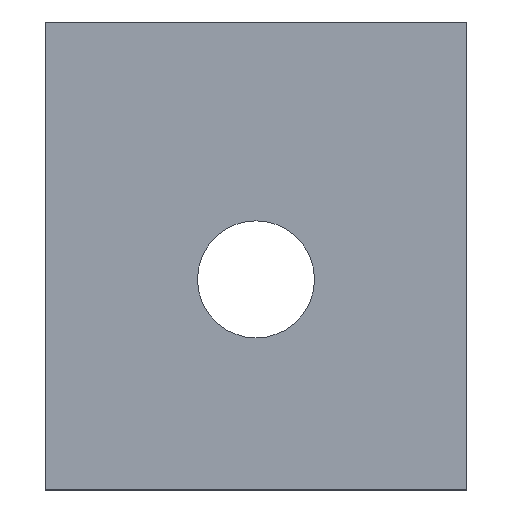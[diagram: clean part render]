
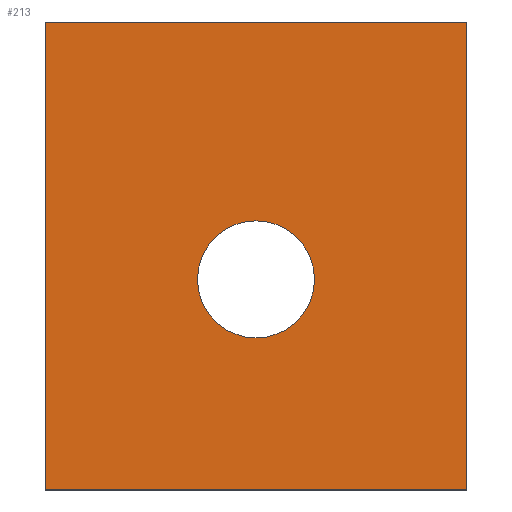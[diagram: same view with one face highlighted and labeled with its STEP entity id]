
A CAD part, top view. The second image highlights one B-rep face of the part: STEP entity #213.
In plain terms, the highlighted planar face has unit normal (0, 0, 1).
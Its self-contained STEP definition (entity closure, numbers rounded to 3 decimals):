
#24 = VERTEX_POINT('',#25);
#25 = CARTESIAN_POINT('',(-487.,0.,23.));
#32 = PLANE('',#33);
#33 = AXIS2_PLACEMENT_3D('',#34,#35,#36);
#34 = CARTESIAN_POINT('',(-487.,0.,20.));
#35 = DIRECTION('',(1.,0.,0.));
#36 = DIRECTION('',(0.,0.,1.));
#44 = PLANE('',#45);
#45 = AXIS2_PLACEMENT_3D('',#46,#47,#48);
#46 = CARTESIAN_POINT('',(-487.,0.,20.));
#47 = DIRECTION('',(0.,1.,0.));
#48 = DIRECTION('',(0.,0.,1.));
#85 = VERTEX_POINT('',#86);
#86 = CARTESIAN_POINT('',(-487.,200.,23.));
#100 = PLANE('',#101);
#101 = AXIS2_PLACEMENT_3D('',#102,#103,#104);
#102 = CARTESIAN_POINT('',(-487.,200.,20.));
#103 = DIRECTION('',(0.,1.,0.));
#104 = DIRECTION('',(0.,0.,1.));
#112 = EDGE_CURVE('',#24,#85,#113,.T.);
#113 = SURFACE_CURVE('',#114,(#118,#125),.PCURVE_S1.);
#114 = LINE('',#115,#116);
#115 = CARTESIAN_POINT('',(-487.,0.,23.));
#116 = VECTOR('',#117,1.);
#117 = DIRECTION('',(0.,1.,0.));
#118 = PCURVE('',#32,#119);
#119 = DEFINITIONAL_REPRESENTATION('',(#120),#124);
#120 = LINE('',#121,#122);
#121 = CARTESIAN_POINT('',(3.,0.));
#122 = VECTOR('',#123,1.);
#123 = DIRECTION('',(0.,-1.));
#124 = ( GEOMETRIC_REPRESENTATION_CONTEXT(2) 
PARAMETRIC_REPRESENTATION_CONTEXT() REPRESENTATION_CONTEXT('2D SPACE',''
  ) );
#125 = PCURVE('',#126,#131);
#126 = PLANE('',#127);
#127 = AXIS2_PLACEMENT_3D('',#128,#129,#130);
#128 = CARTESIAN_POINT('',(-487.,0.,23.));
#129 = DIRECTION('',(0.,0.,1.));
#130 = DIRECTION('',(1.,0.,0.));
#131 = DEFINITIONAL_REPRESENTATION('',(#132),#136);
#132 = LINE('',#133,#134);
#133 = CARTESIAN_POINT('',(0.,0.));
#134 = VECTOR('',#135,1.);
#135 = DIRECTION('',(0.,1.));
#136 = ( GEOMETRIC_REPRESENTATION_CONTEXT(2) 
PARAMETRIC_REPRESENTATION_CONTEXT() REPRESENTATION_CONTEXT('2D SPACE',''
  ) );
#165 = EDGE_CURVE('',#24,#166,#168,.T.);
#166 = VERTEX_POINT('',#167);
#167 = CARTESIAN_POINT('',(-307.,0.,23.));
#168 = SURFACE_CURVE('',#169,(#173,#180),.PCURVE_S1.);
#169 = LINE('',#170,#171);
#170 = CARTESIAN_POINT('',(-487.,0.,23.));
#171 = VECTOR('',#172,1.);
#172 = DIRECTION('',(1.,0.,0.));
#173 = PCURVE('',#44,#174);
#174 = DEFINITIONAL_REPRESENTATION('',(#175),#179);
#175 = LINE('',#176,#177);
#176 = CARTESIAN_POINT('',(3.,0.));
#177 = VECTOR('',#178,1.);
#178 = DIRECTION('',(0.,1.));
#179 = ( GEOMETRIC_REPRESENTATION_CONTEXT(2) 
PARAMETRIC_REPRESENTATION_CONTEXT() REPRESENTATION_CONTEXT('2D SPACE',''
  ) );
#180 = PCURVE('',#126,#181);
#181 = DEFINITIONAL_REPRESENTATION('',(#182),#186);
#182 = LINE('',#183,#184);
#183 = CARTESIAN_POINT('',(0.,0.));
#184 = VECTOR('',#185,1.);
#185 = DIRECTION('',(1.,0.));
#186 = ( GEOMETRIC_REPRESENTATION_CONTEXT(2) 
PARAMETRIC_REPRESENTATION_CONTEXT() REPRESENTATION_CONTEXT('2D SPACE',''
  ) );
#202 = PLANE('',#203);
#203 = AXIS2_PLACEMENT_3D('',#204,#205,#206);
#204 = CARTESIAN_POINT('',(-307.,0.,20.));
#205 = DIRECTION('',(1.,0.,0.));
#206 = DIRECTION('',(0.,0.,1.));
#213 = ADVANCED_FACE('',(#214,#262),#126,.T.);
#214 = FACE_BOUND('',#215,.T.);
#215 = EDGE_LOOP('',(#216,#217,#218,#241));
#216 = ORIENTED_EDGE('',*,*,#112,.F.);
#217 = ORIENTED_EDGE('',*,*,#165,.T.);
#218 = ORIENTED_EDGE('',*,*,#219,.T.);
#219 = EDGE_CURVE('',#166,#220,#222,.T.);
#220 = VERTEX_POINT('',#221);
#221 = CARTESIAN_POINT('',(-307.,200.,23.));
#222 = SURFACE_CURVE('',#223,(#227,#234),.PCURVE_S1.);
#223 = LINE('',#224,#225);
#224 = CARTESIAN_POINT('',(-307.,0.,23.));
#225 = VECTOR('',#226,1.);
#226 = DIRECTION('',(0.,1.,0.));
#227 = PCURVE('',#126,#228);
#228 = DEFINITIONAL_REPRESENTATION('',(#229),#233);
#229 = LINE('',#230,#231);
#230 = CARTESIAN_POINT('',(180.,0.));
#231 = VECTOR('',#232,1.);
#232 = DIRECTION('',(0.,1.));
#233 = ( GEOMETRIC_REPRESENTATION_CONTEXT(2) 
PARAMETRIC_REPRESENTATION_CONTEXT() REPRESENTATION_CONTEXT('2D SPACE',''
  ) );
#234 = PCURVE('',#202,#235);
#235 = DEFINITIONAL_REPRESENTATION('',(#236),#240);
#236 = LINE('',#237,#238);
#237 = CARTESIAN_POINT('',(3.,0.));
#238 = VECTOR('',#239,1.);
#239 = DIRECTION('',(0.,-1.));
#240 = ( GEOMETRIC_REPRESENTATION_CONTEXT(2) 
PARAMETRIC_REPRESENTATION_CONTEXT() REPRESENTATION_CONTEXT('2D SPACE',''
  ) );
#241 = ORIENTED_EDGE('',*,*,#242,.F.);
#242 = EDGE_CURVE('',#85,#220,#243,.T.);
#243 = SURFACE_CURVE('',#244,(#248,#255),.PCURVE_S1.);
#244 = LINE('',#245,#246);
#245 = CARTESIAN_POINT('',(-487.,200.,23.));
#246 = VECTOR('',#247,1.);
#247 = DIRECTION('',(1.,0.,0.));
#248 = PCURVE('',#126,#249);
#249 = DEFINITIONAL_REPRESENTATION('',(#250),#254);
#250 = LINE('',#251,#252);
#251 = CARTESIAN_POINT('',(0.,200.));
#252 = VECTOR('',#253,1.);
#253 = DIRECTION('',(1.,0.));
#254 = ( GEOMETRIC_REPRESENTATION_CONTEXT(2) 
PARAMETRIC_REPRESENTATION_CONTEXT() REPRESENTATION_CONTEXT('2D SPACE',''
  ) );
#255 = PCURVE('',#100,#256);
#256 = DEFINITIONAL_REPRESENTATION('',(#257),#261);
#257 = LINE('',#258,#259);
#258 = CARTESIAN_POINT('',(3.,0.));
#259 = VECTOR('',#260,1.);
#260 = DIRECTION('',(0.,1.));
#261 = ( GEOMETRIC_REPRESENTATION_CONTEXT(2) 
PARAMETRIC_REPRESENTATION_CONTEXT() REPRESENTATION_CONTEXT('2D SPACE',''
  ) );
#262 = FACE_BOUND('',#263,.T.);
#263 = EDGE_LOOP('',(#264));
#264 = ORIENTED_EDGE('',*,*,#265,.T.);
#265 = EDGE_CURVE('',#266,#266,#268,.T.);
#266 = VERTEX_POINT('',#267);
#267 = CARTESIAN_POINT('',(-372.,90.,23.));
#268 = SURFACE_CURVE('',#269,(#274,#285),.PCURVE_S1.);
#269 = CIRCLE('',#270,25.);
#270 = AXIS2_PLACEMENT_3D('',#271,#272,#273);
#271 = CARTESIAN_POINT('',(-397.,90.,23.));
#272 = DIRECTION('',(0.,0.,-1.));
#273 = DIRECTION('',(1.,0.,0.));
#274 = PCURVE('',#126,#275);
#275 = DEFINITIONAL_REPRESENTATION('',(#276),#284);
#276 = ( BOUNDED_CURVE() B_SPLINE_CURVE(2,(#277,#278,#279,#280,#281,#282
,#283),.UNSPECIFIED.,.T.,.F.) B_SPLINE_CURVE_WITH_KNOTS((1,2,2,2,2,1),(
    -2.094,0.,2.094,4.189,6.283,
8.378),.UNSPECIFIED.) CURVE() GEOMETRIC_REPRESENTATION_ITEM() 
RATIONAL_B_SPLINE_CURVE((1.,0.5,1.,0.5,1.,0.5,1.)) REPRESENTATION_ITEM(
  '') );
#277 = CARTESIAN_POINT('',(115.,90.));
#278 = CARTESIAN_POINT('',(115.,46.699));
#279 = CARTESIAN_POINT('',(77.5,68.349));
#280 = CARTESIAN_POINT('',(40.,90.));
#281 = CARTESIAN_POINT('',(77.5,111.651));
#282 = CARTESIAN_POINT('',(115.,133.301));
#283 = CARTESIAN_POINT('',(115.,90.));
#284 = ( GEOMETRIC_REPRESENTATION_CONTEXT(2) 
PARAMETRIC_REPRESENTATION_CONTEXT() REPRESENTATION_CONTEXT('2D SPACE',''
  ) );
#285 = PCURVE('',#286,#291);
#286 = CYLINDRICAL_SURFACE('',#287,25.);
#287 = AXIS2_PLACEMENT_3D('',#288,#289,#290);
#288 = CARTESIAN_POINT('',(-397.,90.,19.));
#289 = DIRECTION('',(-0.,-0.,-1.));
#290 = DIRECTION('',(1.,0.,0.));
#291 = DEFINITIONAL_REPRESENTATION('',(#292),#296);
#292 = LINE('',#293,#294);
#293 = CARTESIAN_POINT('',(-6.283,-4.));
#294 = VECTOR('',#295,1.);
#295 = DIRECTION('',(1.,-0.));
#296 = ( GEOMETRIC_REPRESENTATION_CONTEXT(2) 
PARAMETRIC_REPRESENTATION_CONTEXT() REPRESENTATION_CONTEXT('2D SPACE',''
  ) );
